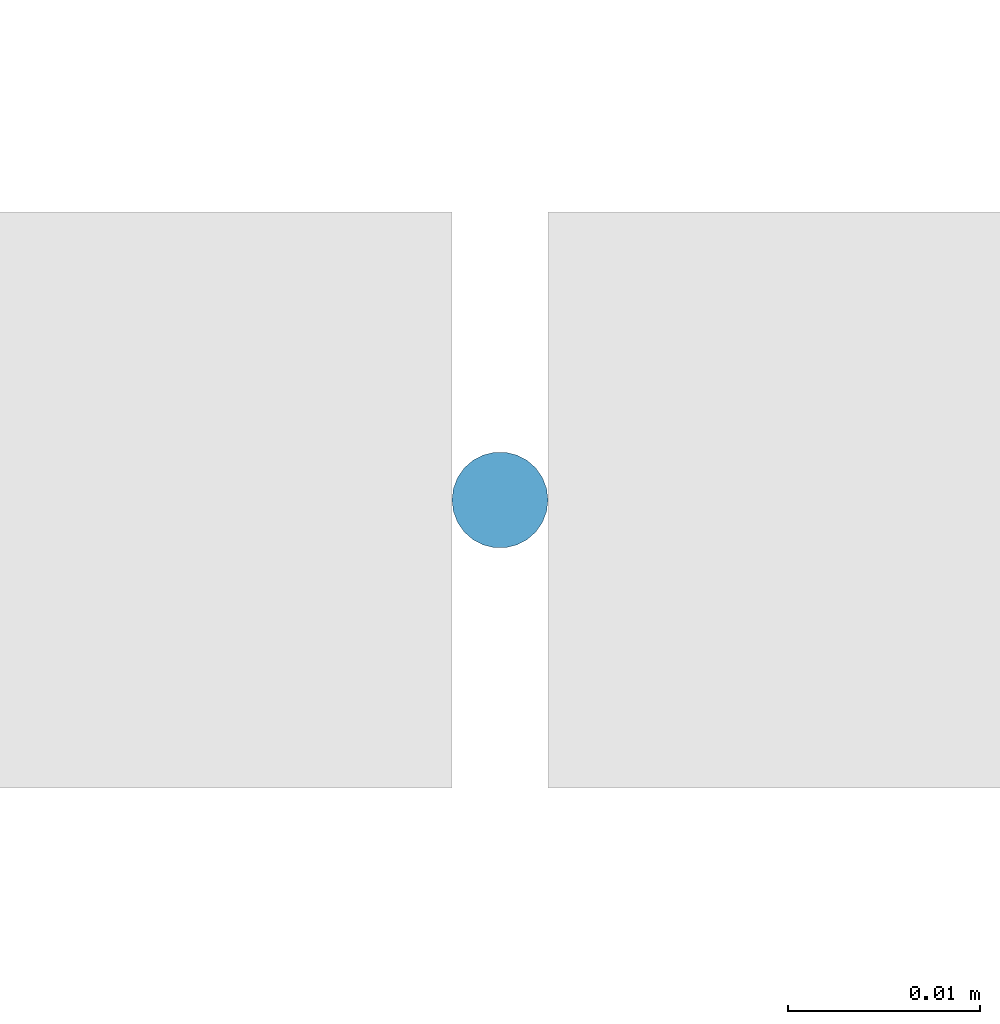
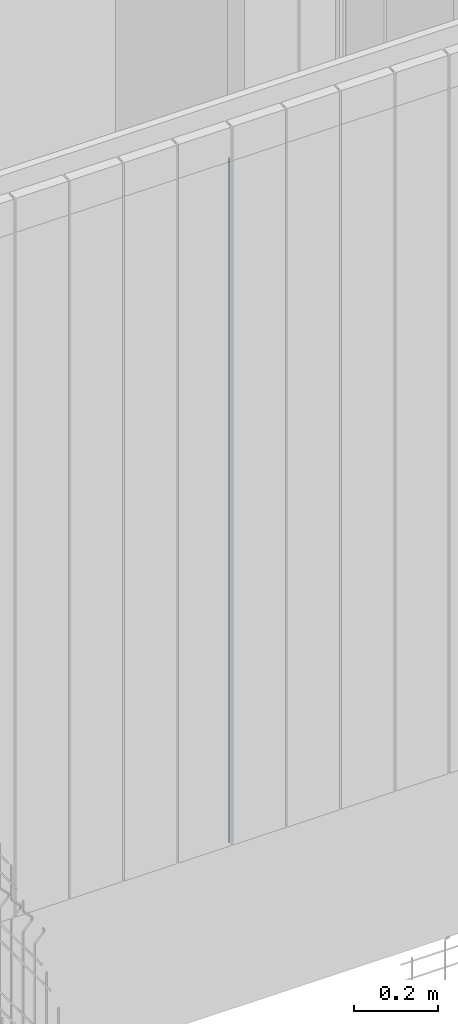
# One storey, part 14 of 81: 1 member, 1 element without a shape of its own.
"""IFC2X3 building model written with IfcOpenShell, lengths in metres."""

from ifc_helpers import new_model, entity, si_unit, converted_unit, derived_unit, direction, frame, frame_2d, origin, place, context, subcontext, project, spatial, circle, extrude, source, transform, mapped, material, type_object, type_shapes, element, aggregate, save


model = new_model("IFC2X3")

# Units and contexts
model_context = context("Model", 3, precision=1e-05, world=origin(), true_north=direction((6.12303176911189e-17, 1.0)))
body_context = subcontext(model_context, "Body", "Model", "MODEL_VIEW")
ifc_project = project(units=[si_unit("LENGTHUNIT", "METRE"), si_unit("AREAUNIT", "SQUARE_METRE"), si_unit("VOLUMEUNIT", "CUBIC_METRE"), converted_unit("PLANEANGLEUNIT", "DEGREE", entity("IfcRatioMeasure", 0.0174532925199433), si_unit("PLANEANGLEUNIT", "RADIAN"), dimensions=[0, 0, 0, 0, 0, 0, 0]), si_unit("MASSUNIT", "GRAM", prefix="KILO"), derived_unit("MASSDENSITYUNIT", [(si_unit("MASSUNIT", "GRAM", prefix="KILO"), 1), (si_unit("LENGTHUNIT", "METRE"), -3)]), derived_unit("MOMENTOFINERTIAUNIT", [(si_unit("LENGTHUNIT", "METRE"), 4)]), si_unit("TIMEUNIT", "SECOND"), si_unit("FREQUENCYUNIT", "HERTZ"), si_unit("THERMODYNAMICTEMPERATUREUNIT", "DEGREE_CELSIUS"), derived_unit("THERMALTRANSMITTANCEUNIT", [(si_unit("MASSUNIT", "GRAM", prefix="KILO"), 1), (si_unit("THERMODYNAMICTEMPERATUREUNIT", "KELVIN"), -1), (si_unit("TIMEUNIT", "SECOND"), -3)]), derived_unit("VOLUMETRICFLOWRATEUNIT", [(si_unit("LENGTHUNIT", "METRE"), 3), (si_unit("TIMEUNIT", "SECOND"), -1)]), si_unit("ELECTRICCURRENTUNIT", "AMPERE"), si_unit("ELECTRICVOLTAGEUNIT", "VOLT"), si_unit("POWERUNIT", "WATT"), si_unit("FORCEUNIT", "NEWTON", prefix="KILO"), si_unit("ILLUMINANCEUNIT", "LUX"), si_unit("LUMINOUSFLUXUNIT", "LUMEN"), si_unit("LUMINOUSINTENSITYUNIT", "CANDELA"), derived_unit("USERDEFINED", [(si_unit("MASSUNIT", "GRAM", prefix="KILO"), -1), (si_unit("LENGTHUNIT", "METRE"), -2), (si_unit("TIMEUNIT", "SECOND"), 3), (si_unit("LUMINOUSFLUXUNIT", "LUMEN"), 1)]), derived_unit("LINEARVELOCITYUNIT", [(si_unit("LENGTHUNIT", "METRE"), 1), (si_unit("TIMEUNIT", "SECOND"), -1)]), si_unit("PRESSUREUNIT", "PASCAL"), derived_unit("USERDEFINED", [(si_unit("LENGTHUNIT", "METRE"), -2), (si_unit("MASSUNIT", "GRAM", prefix="KILO"), 1), (si_unit("TIMEUNIT", "SECOND"), -2)]), derived_unit("LINEARFORCEUNIT", [(si_unit("MASSUNIT", "GRAM", prefix="KILO"), 1), (si_unit("LENGTHUNIT", "METRE"), 1), (si_unit("TIMEUNIT", "SECOND"), -2), (si_unit("LENGTHUNIT", "METRE"), -1)]), derived_unit("PLANARFORCEUNIT", [(si_unit("MASSUNIT", "GRAM", prefix="KILO"), 1), (si_unit("LENGTHUNIT", "METRE"), 1), (si_unit("TIMEUNIT", "SECOND"), -2), (si_unit("LENGTHUNIT", "METRE"), -2)])], contexts=[model_context])

# Site, building, storey
site_placement = place(None, origin())
site = spatial("IfcSite", under=ifc_project, at=site_placement, Name="Surface", CompositionType="ELEMENT")
building_placement = place(site_placement, origin())
building = spatial("IfcBuilding", under=site, at=building_placement, CompositionType="ELEMENT")
storey_placement = place(building_placement, origin())
storey = spatial("IfcBuildingStorey", under=building, at=storey_placement, Name="01 RDC", CompositionType="ELEMENT", Elevation=-1.94916083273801e-14)

# Curtain wall, member
curtain_wall_type = type_object("IfcCurtainWallType", Name="Mur-rideau:1m x 2m", PredefinedType="NOTDEFINED")
curtain_wall_placement = place(storey_placement, origin())
curtain_wall = element("IfcCurtainWall", 1, at=curtain_wall_placement, inside=storey, type_object=curtain_wall_type, Name="Mur-rideau:1m x 2m", ObjectType="Mur-rideau:1m x 2m")
ifc_material = material(Name="Aluminium - Vert")
member_type = type_object("IfcMemberType", Name="Meneau circulaire:R-30 mm", PredefinedType="MULLION", material=ifc_material)
shared_shape = source(origin(), body_context, "Body", "SweptSolid", [
    extrude(circle(Radius=0.0025, at=frame_2d((-8.37005581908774e-27, 3.23452349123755e-15), x_axis=(1.0, 0.0))), frame((0.0, 0.0, -2.0), z_axis=(0.0, 0.0, 1.0), x_axis=(-1.0, 0.0, 0.0)), (0.0, 0.0, 1.0), 2.0),
])
type_shapes(member_type, [shared_shape])
member_placement = place(storey_placement, frame((6.66906158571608, -6.30971095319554, 0.3), z_axis=(0.0, 0.0, -1.0), x_axis=(-1.0, 0.0, 0.0)))
member = element("IfcMember", 2, at=member_placement, type_object=member_type, material=ifc_material, Name="Meneau circulaire:R-30 mm", ObjectType="Meneau circulaire:R-30 mm", context=body_context, shape_type="MappedRepresentation", body=[
    mapped(shared_shape, transform((0.0, 0.0, 0.0), scale=1.0)),
])
aggregate(curtain_wall, [member])

save(model, "model.ifc")
